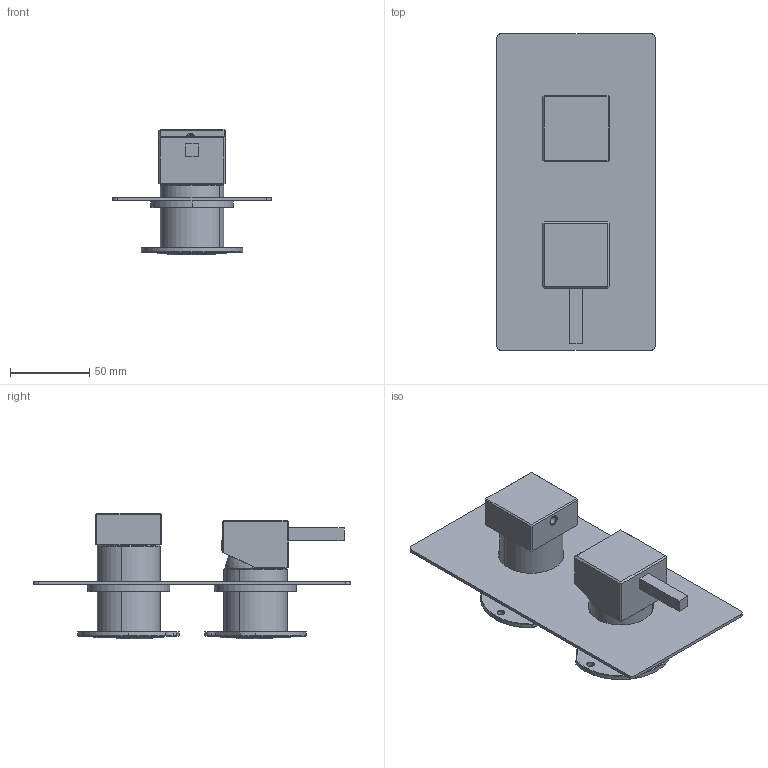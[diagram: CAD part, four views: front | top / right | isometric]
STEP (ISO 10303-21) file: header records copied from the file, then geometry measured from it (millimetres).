
FILE_DESCRIPTION (( 'STEP AP203' ), '1' );
FILE_NAME ('EM42.STEP', '2024-01-09T15:05:33', ( '' ), ( '' ), 'SwSTEP 2.0', 'SolidWorks 2023', '' );
FILE_SCHEMA (( 'CONFIG_CONTROL_DESIGN' ));
Length unit declared in the file: millimetre
Products named in the file (26): C10.00.0011; C24.1837.00.0; AS759_00; C12.00.0057; EM42; C25.2056.00.0; C10.00.0015; C24.1833.00.0; C24.2016.00.0; EU0110_1; C25.2695.00; C11.14.0009; C24.0075.00.0; AS758_00; C24.1879.00.0; C24.2019.00.0; C24.1828.00.0; C24.1830.00.0; C47.00.0023.01; C31.00.0006.01; C47.00.0015; C11.14.0007; AS809_00; AS747_00; C28.1829.00.0; AS1078
Assembly tree (27 placements, depth 4):
  EM42
    AS1078
      C25.2695.00
      C25.2056.00.0  x2
    AS759_00
      C24.0075.00.0
      C10.00.0011
      C24.1833.00.0
      C24.1828.00.0
      C28.1829.00.0
      AS758_00
        C24.1879.00.0
        C24.2016.00.0
        C11.14.0007
    AS747_00
      C47.00.0015
      C10.00.0015
      C24.1830.00.0
      C12.00.0057
      C24.1837.00.0
      C31.00.0006.01
    AS809_00
      C24.2019.00.0
      EU0110_1
      C11.14.0007
      C11.14.0009
      C47.00.0023.01
Bounding box: 100 x 200 x 79.3 mm (x, y, z)
Volume: 203215.1 mm3; surface area: 136119.4 mm2
Topology: 23 solids, 23 shells, 848 faces, 1969 edges, 1202 vertices
Faces by surface type: cylinder 306, plane 273, cone 180, torus 54, bspline 35
Entity records: 28475 total; most frequent: CARTESIAN_POINT 6620, DIRECTION 4289, ORIENTED_EDGE 3778, EDGE_CURVE 1889, AXIS2_PLACEMENT_3D 1725, VERTEX_POINT 1164, EDGE_LOOP 941, CIRCLE 907
